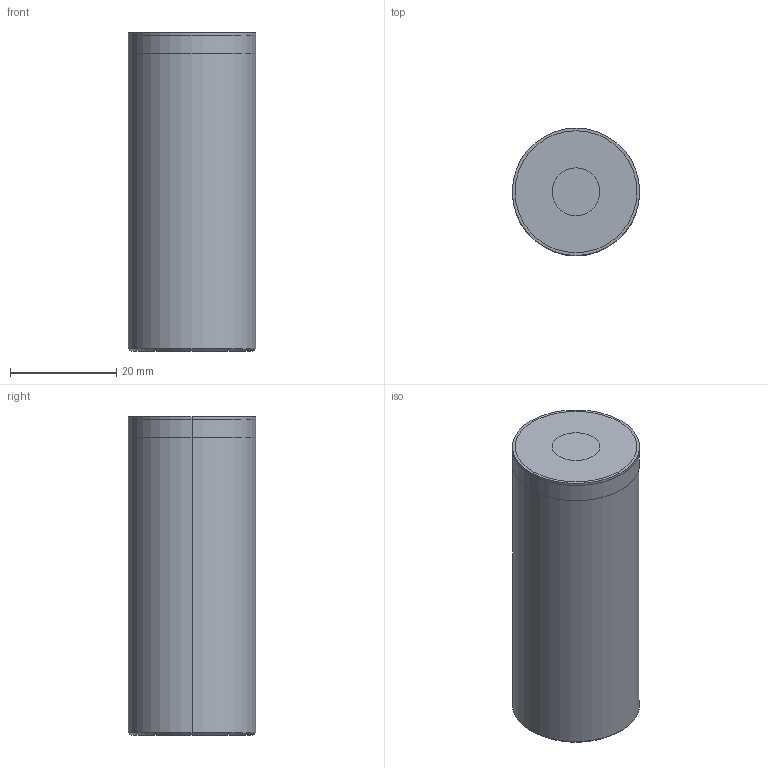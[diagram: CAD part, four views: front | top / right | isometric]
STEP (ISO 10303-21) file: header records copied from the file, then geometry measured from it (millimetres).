
FILE_DESCRIPTION (( 'STEP AP214' ), '1' );
FILE_NAME ('BruyRubio_BRSP_24_X_60.STEP', '2020-01-15T07:45:44', ( '' ), ( '' ), 'SwSTEP 2.0', 'SolidWorks 2017', '' );
FILE_SCHEMA (( 'AUTOMOTIVE_DESIGN' ));
Length unit declared in the file: millimetre
Products named in the file (3): BruyRubio_BRSP_24_X_60; Einbauraum_746e8f; BRSP 24 X 60_07e115
Assembly tree (2 placements, depth 2):
  BruyRubio_BRSP_24_X_60
    Einbauraum_746e8f
    BRSP 24 X 60_07e115
Bounding box: 24 x 24 x 60.08 mm (x, y, z)
Volume: 24072 mm3; surface area: 8330.3 mm2
Topology: 2 solids, 2 shells, 17 faces, 32 edges, 20 vertices
Faces by surface type: cylinder 8, plane 5, cone 4
Entity records: 735 total; most frequent: DIRECTION 96, CARTESIAN_POINT 74, ORIENTED_EDGE 64, AXIS2_PLACEMENT_3D 42, EDGE_CURVE 32, UNCERTAINTY_MEASURE_WITH_UNIT 24, STYLED_ITEM 21, PRESENTATION_LAYER_ASSIGNMENT 21
